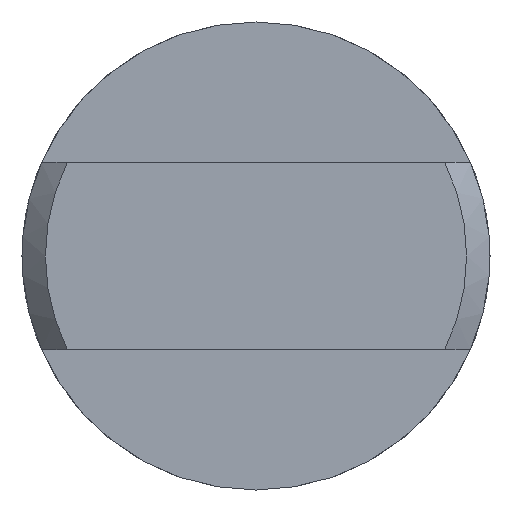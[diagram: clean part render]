
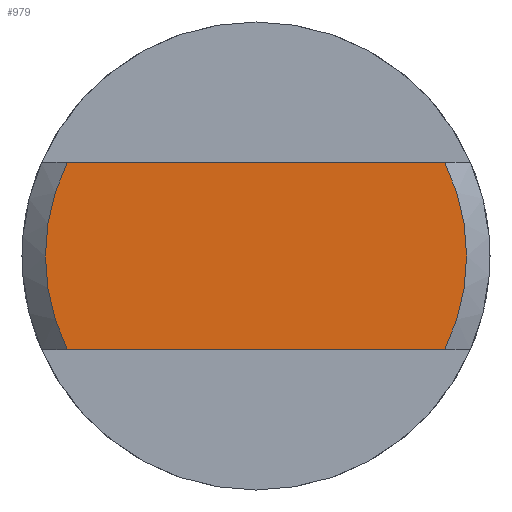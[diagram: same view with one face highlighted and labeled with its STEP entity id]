
A CAD part, left-side view. The second image highlights one B-rep face of the part: STEP entity #979.
In plain terms, the highlighted planar face has unit normal (-1, 0, 0).
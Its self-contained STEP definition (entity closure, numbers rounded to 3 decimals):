
#16 = ORIENTED_EDGE ( 'NONE', *, *, #623, .T. ) ;
#31 = ORIENTED_EDGE ( 'NONE', *, *, #1548, .F. ) ;
#72 = DIRECTION ( 'NONE',  ( 0., 0., -1. ) ) ;
#79 = VERTEX_POINT ( 'NONE', #1436 ) ;
#82 = CIRCLE ( 'NONE', #1402, 4.5 ) ;
#116 = DIRECTION ( 'NONE',  ( 0., -1., 0. ) ) ;
#135 = CARTESIAN_POINT ( 'NONE',  ( -28.5, 0., 0. ) ) ;
#260 = LINE ( 'NONE', #652, #443 ) ;
#286 = VERTEX_POINT ( 'NONE', #295 ) ;
#294 = VERTEX_POINT ( 'NONE', #869 ) ;
#295 = CARTESIAN_POINT ( 'NONE',  ( -28.5, -4.031, 2. ) ) ;
#443 = VECTOR ( 'NONE', #116, 1000. ) ;
#458 = EDGE_CURVE ( 'NONE', #1074, #286, #82, .T. ) ;
#623 = EDGE_CURVE ( 'NONE', #294, #79, #648, .T. ) ;
#648 = CIRCLE ( 'NONE', #1555, 4.5 ) ;
#652 = CARTESIAN_POINT ( 'NONE',  ( -28.5, 0., 2. ) ) ;
#739 = DIRECTION ( 'NONE',  ( 0., 1., 0. ) ) ;
#815 = FACE_OUTER_BOUND ( 'NONE', #1381, .T. ) ;
#869 = CARTESIAN_POINT ( 'NONE',  ( -28.5, 4.031, 2. ) ) ;
#872 = DIRECTION ( 'NONE',  ( 0., 0., -1. ) ) ;
#964 = PLANE ( 'NONE',  #1022 ) ;
#971 = VECTOR ( 'NONE', #739, 1000. ) ;
#979 = ADVANCED_FACE ( 'NONE', ( #815 ), #964, .F. ) ;
#984 = ORIENTED_EDGE ( 'NONE', *, *, #1214, .F. ) ;
#1022 = AXIS2_PLACEMENT_3D ( 'NONE', #135, #1475, #1347 ) ;
#1044 = DIRECTION ( 'NONE',  ( -1., 0., 0. ) ) ;
#1074 = VERTEX_POINT ( 'NONE', #1509 ) ;
#1153 = ORIENTED_EDGE ( 'NONE', *, *, #458, .T. ) ;
#1158 = DIRECTION ( 'NONE',  ( -1., 0., 0. ) ) ;
#1214 = EDGE_CURVE ( 'NONE', #1074, #79, #1309, .T. ) ;
#1271 = CARTESIAN_POINT ( 'NONE',  ( -28.5, 0., 0. ) ) ;
#1307 = CARTESIAN_POINT ( 'NONE',  ( -28.5, 0., 0. ) ) ;
#1309 = LINE ( 'NONE', #1443, #971 ) ;
#1347 = DIRECTION ( 'NONE',  ( 0., 0., -1. ) ) ;
#1381 = EDGE_LOOP ( 'NONE', ( #984, #1153, #31, #16 ) ) ;
#1402 = AXIS2_PLACEMENT_3D ( 'NONE', #1307, #1044, #72 ) ;
#1436 = CARTESIAN_POINT ( 'NONE',  ( -28.5, 4.031, -2. ) ) ;
#1443 = CARTESIAN_POINT ( 'NONE',  ( -28.5, 0., -2. ) ) ;
#1475 = DIRECTION ( 'NONE',  ( 1., 0., 0. ) ) ;
#1509 = CARTESIAN_POINT ( 'NONE',  ( -28.5, -4.031, -2. ) ) ;
#1548 = EDGE_CURVE ( 'NONE', #294, #286, #260, .T. ) ;
#1555 = AXIS2_PLACEMENT_3D ( 'NONE', #1271, #1158, #872 ) ;
